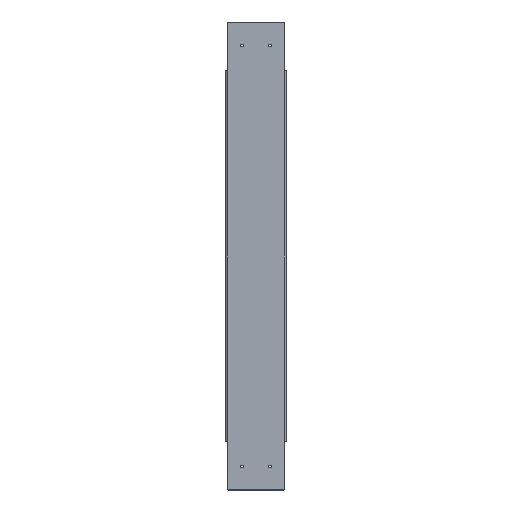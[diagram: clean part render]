
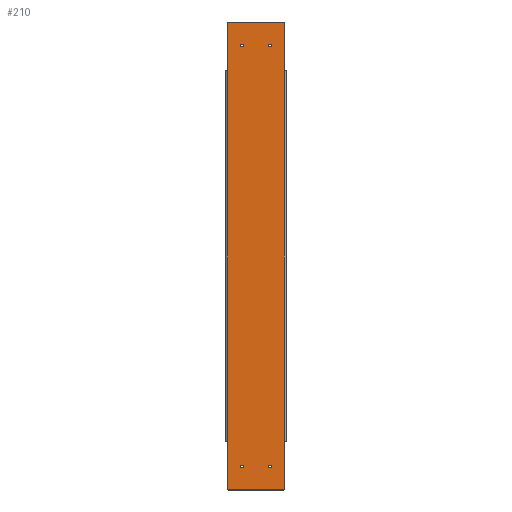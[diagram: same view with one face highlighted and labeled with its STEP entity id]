
A CAD part, top view. The second image highlights one B-rep face of the part: STEP entity #210.
In plain terms, the highlighted planar face has unit normal (0, 0, 1).
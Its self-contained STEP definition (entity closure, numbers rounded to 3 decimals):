
#59=CARTESIAN_POINT('',(1580.,3593.5,147.5));
#60=DIRECTION('',(-0.,-0.,1.));
#61=DIRECTION('',(0.,1.,0.));
#62=AXIS2_PLACEMENT_3D('',#59,#60,#61);
#63=PLANE('',#62);
#64=CARTESIAN_POINT('',(1530.,3630.9,147.5));
#65=VERTEX_POINT('',#64);
#66=CARTESIAN_POINT('',(1530.,3633.5,147.5));
#67=DIRECTION('',(-0.,-0.,1.));
#68=DIRECTION('',(0.,-1.,-0.));
#69=AXIS2_PLACEMENT_3D('',#66,#67,#68);
#70=CIRCLE('',#69,2.6);
#71=EDGE_CURVE('',#65,#65,#70,.T.);
#72=ORIENTED_EDGE('',*,*,#71,.F.);
#73=EDGE_LOOP('',(#72));
#74=FACE_BOUND('',#73,.T.);
#75=CARTESIAN_POINT('',(1590.,3630.9,147.5));
#76=VERTEX_POINT('',#75);
#77=CARTESIAN_POINT('',(1590.,3633.5,147.5));
#78=DIRECTION('',(-0.,-0.,1.));
#79=DIRECTION('',(0.,-1.,-0.));
#80=AXIS2_PLACEMENT_3D('',#77,#78,#79);
#81=CIRCLE('',#80,2.6);
#82=EDGE_CURVE('',#76,#76,#81,.T.);
#83=ORIENTED_EDGE('',*,*,#82,.F.);
#84=EDGE_LOOP('',(#83));
#85=FACE_BOUND('',#84,.T.);
#86=CARTESIAN_POINT('',(1590.,4530.9,147.5));
#87=VERTEX_POINT('',#86);
#88=CARTESIAN_POINT('',(1590.,4533.5,147.5));
#89=DIRECTION('',(-0.,-0.,1.));
#90=DIRECTION('',(0.,-1.,-0.));
#91=AXIS2_PLACEMENT_3D('',#88,#89,#90);
#92=CIRCLE('',#91,2.6);
#93=EDGE_CURVE('',#87,#87,#92,.T.);
#94=ORIENTED_EDGE('',*,*,#93,.F.);
#95=EDGE_LOOP('',(#94));
#96=FACE_BOUND('',#95,.T.);
#97=CARTESIAN_POINT('',(1530.,4530.9,147.5));
#98=VERTEX_POINT('',#97);
#99=CARTESIAN_POINT('',(1530.,4533.5,147.5));
#100=DIRECTION('',(-0.,-0.,1.));
#101=DIRECTION('',(0.,-1.,-0.));
#102=AXIS2_PLACEMENT_3D('',#99,#100,#101);
#103=CIRCLE('',#102,2.6);
#104=EDGE_CURVE('',#98,#98,#103,.T.);
#105=ORIENTED_EDGE('',*,*,#104,.F.);
#106=EDGE_LOOP('',(#105));
#107=FACE_BOUND('',#106,.T.);
#108=CARTESIAN_POINT('',(1620.,3687.5,147.5));
#109=VERTEX_POINT('',#108);
#110=CARTESIAN_POINT('',(1620.,3584.5,147.5));
#111=VERTEX_POINT('',#110);
#112=CARTESIAN_POINT('',(1620.,3687.5,147.5));
#113=DIRECTION('',(0.,-1.,-0.));
#114=VECTOR('',#113,103.);
#115=LINE('',#112,#114);
#116=EDGE_CURVE('',#109,#111,#115,.T.);
#117=ORIENTED_EDGE('',*,*,#116,.F.);
#118=CARTESIAN_POINT('',(1620.,4479.5,147.5));
#119=VERTEX_POINT('',#118);
#120=CARTESIAN_POINT('',(1620.,3687.5,147.5));
#121=DIRECTION('',(0.,1.,0.));
#122=VECTOR('',#121,792.);
#123=LINE('',#120,#122);
#124=EDGE_CURVE('',#109,#119,#123,.T.);
#125=ORIENTED_EDGE('',*,*,#124,.T.);
#126=CARTESIAN_POINT('',(1620.,4582.5,147.5));
#127=VERTEX_POINT('',#126);
#128=CARTESIAN_POINT('',(1620.,4479.5,147.5));
#129=DIRECTION('',(0.,1.,0.));
#130=VECTOR('',#129,103.);
#131=LINE('',#128,#130);
#132=EDGE_CURVE('',#119,#127,#131,.T.);
#133=ORIENTED_EDGE('',*,*,#132,.T.);
#134=CARTESIAN_POINT('',(1619.,4583.5,147.5));
#135=VERTEX_POINT('',#134);
#136=CARTESIAN_POINT('',(1619.,4582.5,147.5));
#137=DIRECTION('',(-0.,-0.,1.));
#138=DIRECTION('',(0.,-1.,-0.));
#139=AXIS2_PLACEMENT_3D('',#136,#137,#138);
#140=CIRCLE('',#139,1.);
#141=EDGE_CURVE('',#127,#135,#140,.T.);
#142=ORIENTED_EDGE('',*,*,#141,.T.);
#143=CARTESIAN_POINT('',(1501.,4583.5,147.5));
#144=VERTEX_POINT('',#143);
#145=CARTESIAN_POINT('',(1619.,4583.5,147.5));
#146=DIRECTION('',(-1.,0.,0.));
#147=VECTOR('',#146,118.);
#148=LINE('',#145,#147);
#149=EDGE_CURVE('',#135,#144,#148,.T.);
#150=ORIENTED_EDGE('',*,*,#149,.T.);
#151=CARTESIAN_POINT('',(1500.,4582.5,147.5));
#152=VERTEX_POINT('',#151);
#153=CARTESIAN_POINT('',(1501.,4582.5,147.5));
#154=DIRECTION('',(-0.,-0.,1.));
#155=DIRECTION('',(0.,-1.,-0.));
#156=AXIS2_PLACEMENT_3D('',#153,#154,#155);
#157=CIRCLE('',#156,1.);
#158=EDGE_CURVE('',#144,#152,#157,.T.);
#159=ORIENTED_EDGE('',*,*,#158,.T.);
#160=CARTESIAN_POINT('',(1500.,4479.5,147.5));
#161=VERTEX_POINT('',#160);
#162=CARTESIAN_POINT('',(1500.,4479.5,147.5));
#163=DIRECTION('',(0.,1.,0.));
#164=VECTOR('',#163,103.);
#165=LINE('',#162,#164);
#166=EDGE_CURVE('',#161,#152,#165,.T.);
#167=ORIENTED_EDGE('',*,*,#166,.F.);
#168=CARTESIAN_POINT('',(1500.,3687.5,147.5));
#169=VERTEX_POINT('',#168);
#170=CARTESIAN_POINT('',(1500.,4479.5,147.5));
#171=DIRECTION('',(-0.,-1.,-0.));
#172=VECTOR('',#171,792.);
#173=LINE('',#170,#172);
#174=EDGE_CURVE('',#161,#169,#173,.T.);
#175=ORIENTED_EDGE('',*,*,#174,.T.);
#176=CARTESIAN_POINT('',(1500.,3584.5,147.5));
#177=VERTEX_POINT('',#176);
#178=CARTESIAN_POINT('',(1500.,3687.5,147.5));
#179=DIRECTION('',(0.,-1.,-0.));
#180=VECTOR('',#179,103.);
#181=LINE('',#178,#180);
#182=EDGE_CURVE('',#169,#177,#181,.T.);
#183=ORIENTED_EDGE('',*,*,#182,.T.);
#184=CARTESIAN_POINT('',(1501.,3583.5,147.5));
#185=VERTEX_POINT('',#184);
#186=CARTESIAN_POINT('',(1501.,3584.5,147.5));
#187=DIRECTION('',(-0.,-0.,1.));
#188=DIRECTION('',(0.,-1.,-0.));
#189=AXIS2_PLACEMENT_3D('',#186,#187,#188);
#190=CIRCLE('',#189,1.);
#191=EDGE_CURVE('',#177,#185,#190,.T.);
#192=ORIENTED_EDGE('',*,*,#191,.T.);
#193=CARTESIAN_POINT('',(1619.,3583.5,147.5));
#194=VERTEX_POINT('',#193);
#195=CARTESIAN_POINT('',(1619.,3583.5,147.5));
#196=DIRECTION('',(-1.,0.,0.));
#197=VECTOR('',#196,118.);
#198=LINE('',#195,#197);
#199=EDGE_CURVE('',#194,#185,#198,.T.);
#200=ORIENTED_EDGE('',*,*,#199,.F.);
#201=CARTESIAN_POINT('',(1619.,3584.5,147.5));
#202=DIRECTION('',(-0.,-0.,1.));
#203=DIRECTION('',(0.,-1.,-0.));
#204=AXIS2_PLACEMENT_3D('',#201,#202,#203);
#205=CIRCLE('',#204,1.);
#206=EDGE_CURVE('',#194,#111,#205,.T.);
#207=ORIENTED_EDGE('',*,*,#206,.T.);
#208=EDGE_LOOP('',(#117,#125,#133,#142,#150,#159,#167,#175,#183,#192,#200,#207));
#209=FACE_BOUND('',#208,.T.);
#210=ADVANCED_FACE('',(#74,#85,#96,#107,#209),#63,.T.);
